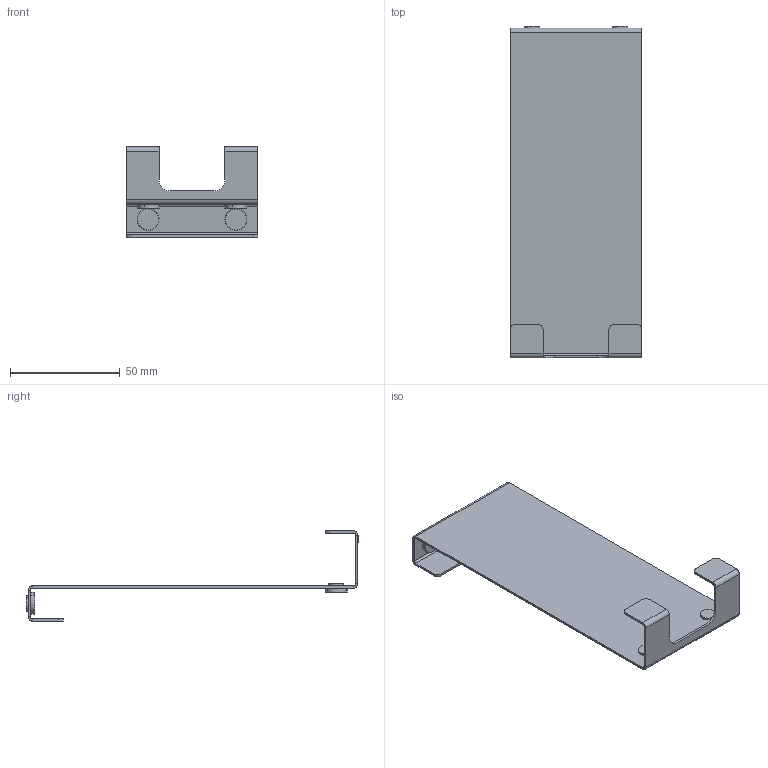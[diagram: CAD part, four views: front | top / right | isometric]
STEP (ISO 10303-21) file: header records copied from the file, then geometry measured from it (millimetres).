
FILE_DESCRIPTION (( 'STEP AP214' ), '1' );
FILE_NAME ('Uchwyt na œci¹gaczkê GIUMI.STEP', '2024-05-09T05:28:07', ( '' ), ( '' ), 'SwSTEP 2.0', 'SolidWorks 2021', '' );
FILE_SCHEMA (( 'AUTOMOTIVE_DESIGN' ));
Length unit declared in the file: millimetre
Products named in the file (3): Uchwyt na œci¹gaczkê GIUMI; stopka gumowa 10mm_7mm; 02-013-0150-W-00-00
Assembly tree (5 placements, depth 2):
  Uchwyt na œci¹gaczkê GIUMI
    02-013-0150-W-00-00
    stopka gumowa 10mm_7mm  x4
Bounding box: 60 x 151 x 41 mm (x, y, z)
Volume: 12780.2 mm3; surface area: 25430.5 mm2
Topology: 5 solids, 5 shells, 102 faces, 216 edges, 128 vertices
Faces by surface type: plane 52, cylinder 42, torus 8
Entity records: 2200 total; most frequent: DIRECTION 398, CARTESIAN_POINT 349, ORIENTED_EDGE 336, EDGE_CURVE 168, AXIS2_PLACEMENT_3D 147, LINE 104, VECTOR 104, VERTEX_POINT 98
